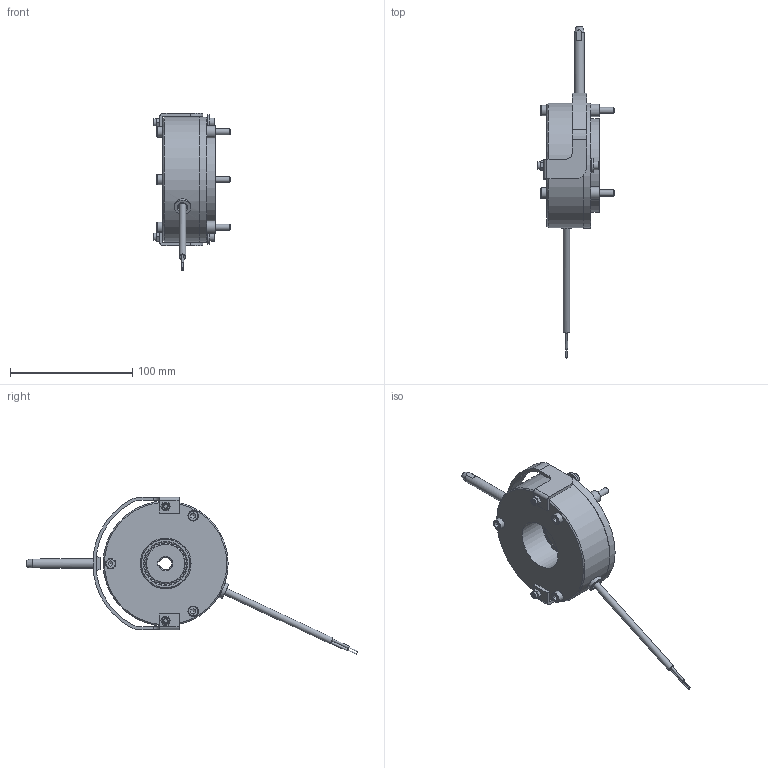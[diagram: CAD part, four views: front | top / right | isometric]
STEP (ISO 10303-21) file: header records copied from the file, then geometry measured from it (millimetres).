
FILE_DESCRIPTION(/* description */ (''),/* implementation_level */ '2;1');
FILE_NAME(/* name */ 'C:\SapWorkDir\Inventor\IP1\ConvertTempPath\5028666_IPT_000.ipt.stp',/* time_stamp */ '2020-09-16T14:42:45+02:00',/* author */ ('STRATE'),/* organization */ (''),/* preprocessor_version */ 'ST-DEVELOPER v17',/* originating_system */ 'Autodesk Inventor 2018',/* authorisation */ '');
FILE_SCHEMA (('AUTOMOTIVE_DESIGN { 1 0 10303 214 3 1 1 }'));
Length unit declared in the file: millimetre
Products named in the file (1): 5028666
Bounding box: 62.5 x 271.1 x 128.39 mm (x, y, z)
Volume: 300868 mm3; surface area: 79831.8 mm2
Topology: 3 solids, 3 shells, 457 faces, 1265 edges, 856 vertices
Faces by surface type: cylinder 289, plane 128, cone 28, torus 10, bspline 2
Full cylindrical faces by diameter (mm): 1 x2, 1.85 x2, 3.242 x2, 4 x2, 4.134 x3, 4.3 x2, 5 x5, 5.3 x1, 5.4 x5, 5.5 x3, 5.9 x2, 6.6 x1, 7 x4, 8 x1, 8.5 x3, 10 x3, 10.6 x6, 12 x2, 13.2 x1, 41.5 x1, 42 x1, 55.5 x2, 56.1 x2, 76.5 x1, 102 x1, 102.1 x1
Entity records: 17927 total; most frequent: CARTESIAN_POINT 5656, ORIENTED_EDGE 2524, DIRECTION 2385, EDGE_CURVE 1262, AXIS2_PLACEMENT_3D 956, VERTEX_POINT 856, EDGE_LOOP 536, CIRCLE 500
